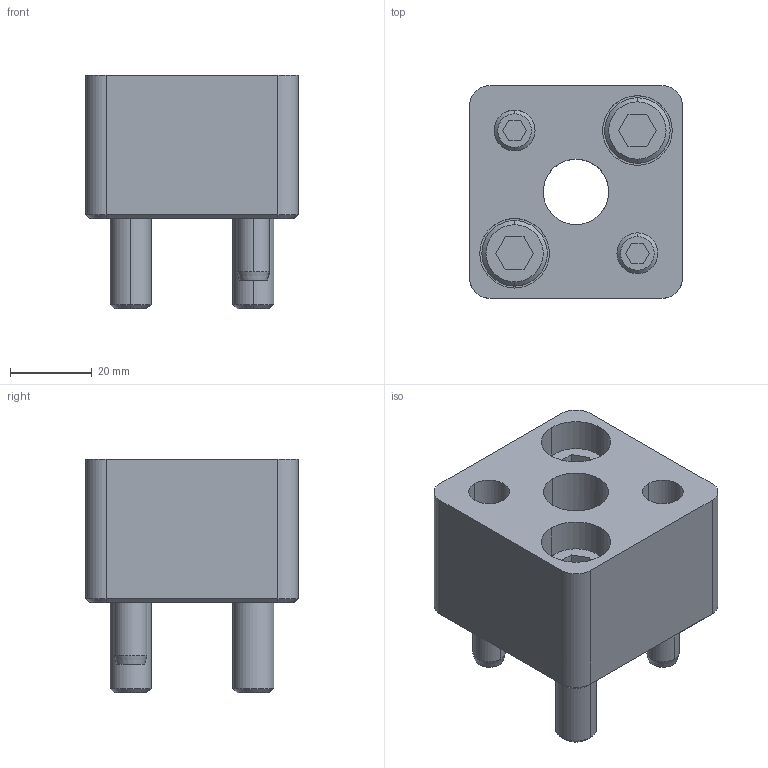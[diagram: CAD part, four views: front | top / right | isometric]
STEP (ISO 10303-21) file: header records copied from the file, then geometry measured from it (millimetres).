
FILE_DESCRIPTION(/* description */ (''),/* implementation_level */ '2;1');
FILE_NAME(/* name */ '3d_hasfr16_04024_r00.stp',/* time_stamp */ '2011-01-10T14:14:55+09:00',/* author */ ('MISUMI'),/* organization */ (''),/* preprocessor_version */ 'ST-DEVELOPER v11',/* originating_system */ 'UGS - NX 5.0',/* authorisation */ '');
FILE_SCHEMA (('CONFIG_CONTROL_DESIGN'));
Length unit declared in the file: millimetre
Products named in the file (1): 3d_hasfr16_04024_r00
Bounding box: 52 x 52 x 57 mm (x, y, z)
Volume: 83253.3 mm3; surface area: 25697.4 mm2
Topology: 7 solids, 7 shells, 147 faces, 326 edges, 207 vertices
Faces by surface type: plane 66, cylinder 51, cone 30
Entity records: 4196 total; most frequent: DIRECTION 744, CARTESIAN_POINT 740, ORIENTED_EDGE 652, EDGE_CURVE 326, AXIS2_PLACEMENT_3D 281, VERTEX_POINT 207, LINE 182, VECTOR 182
